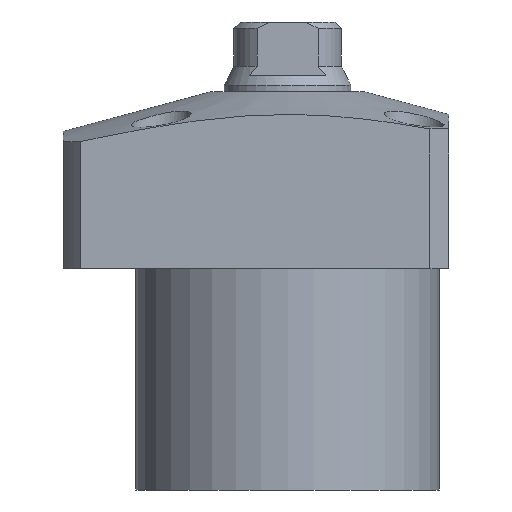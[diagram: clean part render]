
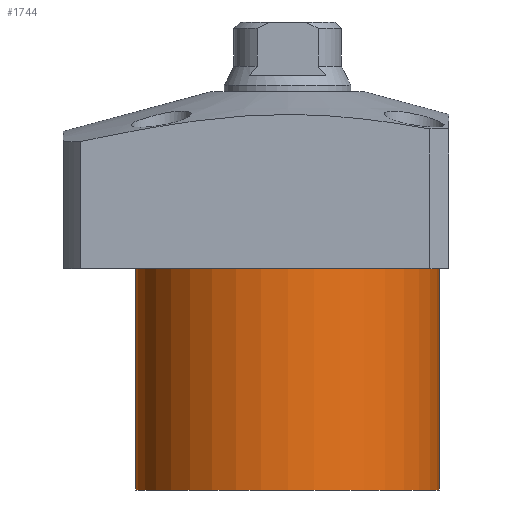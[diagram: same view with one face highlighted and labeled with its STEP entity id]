
A CAD part, front view. The second image highlights one B-rep face of the part: STEP entity #1744.
In plain terms, the highlighted cylindrical face has radius 24 mm (diameter 48 mm), a partial arc.
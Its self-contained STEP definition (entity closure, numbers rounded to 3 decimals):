
#29 = DIRECTION ( 'NONE',  ( 0., 0., -1. ) ) ;
#107 = CIRCLE ( 'NONE', #135, 24. ) ;
#135 = AXIS2_PLACEMENT_3D ( 'NONE', #809, #29, #2145 ) ;
#149 = DIRECTION ( 'NONE',  ( 0., 0., -1. ) ) ;
#246 = VERTEX_POINT ( 'NONE', #2410 ) ;
#263 = AXIS2_PLACEMENT_3D ( 'NONE', #904, #2442, #1867 ) ;
#355 = CARTESIAN_POINT ( 'NONE',  ( 0., 0., -14. ) ) ;
#490 = CARTESIAN_POINT ( 'NONE',  ( 24., 0., -14. ) ) ;
#589 = EDGE_CURVE ( 'NONE', #1574, #1032, #838, .T. ) ;
#593 = EDGE_CURVE ( 'NONE', #246, #1574, #107, .T. ) ;
#646 = CYLINDRICAL_SURFACE ( 'NONE', #263, 24. ) ;
#651 = AXIS2_PLACEMENT_3D ( 'NONE', #355, #149, #1840 ) ;
#774 = ORIENTED_EDGE ( 'NONE', *, *, #1217, .T. ) ;
#778 = VECTOR ( 'NONE', #1558, 1000. ) ;
#809 = CARTESIAN_POINT ( 'NONE',  ( 0., 0., -49. ) ) ;
#838 = LINE ( 'NONE', #2134, #778 ) ;
#872 = CARTESIAN_POINT ( 'NONE',  ( -24., 0., -49. ) ) ;
#884 = CIRCLE ( 'NONE', #651, 24. ) ;
#904 = CARTESIAN_POINT ( 'NONE',  ( 0., 0., -49. ) ) ;
#1032 = VERTEX_POINT ( 'NONE', #1883 ) ;
#1190 = VECTOR ( 'NONE', #2049, 1000. ) ;
#1217 = EDGE_CURVE ( 'NONE', #246, #1621, #1520, .T. ) ;
#1520 = LINE ( 'NONE', #2415, #1190 ) ;
#1558 = DIRECTION ( 'NONE',  ( 0., 0., 1. ) ) ;
#1574 = VERTEX_POINT ( 'NONE', #872 ) ;
#1621 = VERTEX_POINT ( 'NONE', #490 ) ;
#1701 = FACE_OUTER_BOUND ( 'NONE', #1969, .T. ) ;
#1744 = ADVANCED_FACE ( 'NONE', ( #1701 ), #646, .T. ) ;
#1792 = ORIENTED_EDGE ( 'NONE', *, *, #589, .F. ) ;
#1840 = DIRECTION ( 'NONE',  ( 1., 0., 0. ) ) ;
#1867 = DIRECTION ( 'NONE',  ( 1., 0., 0. ) ) ;
#1883 = CARTESIAN_POINT ( 'NONE',  ( -24., 0., -14. ) ) ;
#1936 = ORIENTED_EDGE ( 'NONE', *, *, #593, .F. ) ;
#1969 = EDGE_LOOP ( 'NONE', ( #1792, #1936, #774, #2334 ) ) ;
#2049 = DIRECTION ( 'NONE',  ( 0., 0., 1. ) ) ;
#2105 = EDGE_CURVE ( 'NONE', #1621, #1032, #884, .T. ) ;
#2134 = CARTESIAN_POINT ( 'NONE',  ( -24., 0., -49. ) ) ;
#2145 = DIRECTION ( 'NONE',  ( -1., 0., 0. ) ) ;
#2334 = ORIENTED_EDGE ( 'NONE', *, *, #2105, .T. ) ;
#2410 = CARTESIAN_POINT ( 'NONE',  ( 24., 0., -49. ) ) ;
#2415 = CARTESIAN_POINT ( 'NONE',  ( 24., 0., -49. ) ) ;
#2442 = DIRECTION ( 'NONE',  ( 0., 0., 1. ) ) ;
